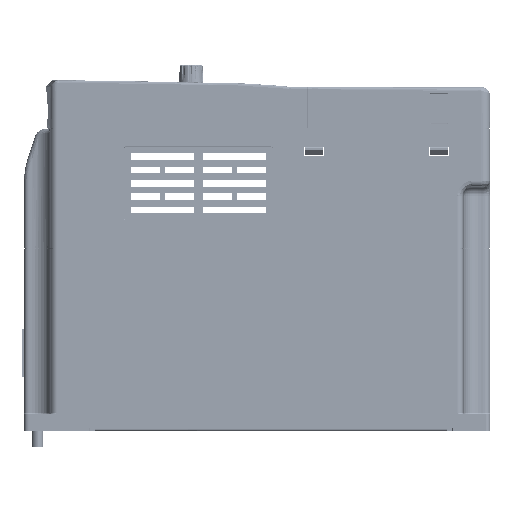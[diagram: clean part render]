
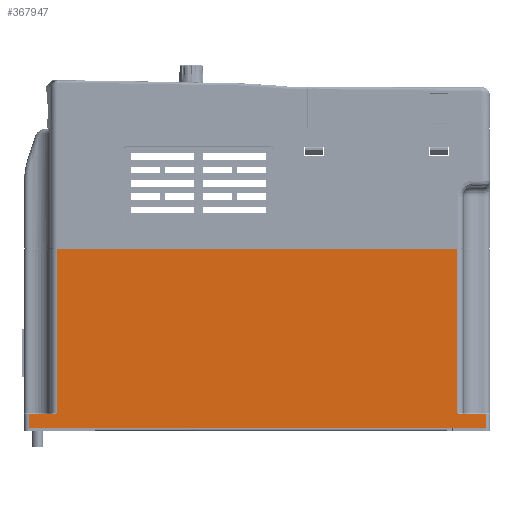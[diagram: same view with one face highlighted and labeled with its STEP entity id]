
A CAD part, left-side view. The second image highlights one B-rep face of the part: STEP entity #367947.
In plain terms, the highlighted planar face has unit normal (-1, 0, 0).
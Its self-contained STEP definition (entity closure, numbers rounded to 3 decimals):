
#348118=DIRECTION('',(0.,-1.,0.));
#348119=VECTOR('',#348118,206.);
#348120=CARTESIAN_POINT('',(-65.,103.,-77.));
#348121=LINE('',#348120,#348119);
#348570=DIRECTION('',(0.,0.,1.));
#348571=VECTOR('',#348570,6.3);
#348572=CARTESIAN_POINT('',(-65.,-103.,-77.));
#348573=LINE('',#348572,#348571);
#348584=CARTESIAN_POINT('',(-65.,92.285,
-70.7));
#348585=CARTESIAN_POINT('',(-65.,92.071,
-70.694));
#348586=CARTESIAN_POINT('',(-65.,91.63,
-70.634));
#348587=CARTESIAN_POINT('',(-65.,90.948,
-70.375));
#348588=CARTESIAN_POINT('',(-65.,90.445,-70.138));
#348589=CARTESIAN_POINT('',(-65.,90.185,-70.));
#348594=DIRECTION('',(0.,-1.,0.));
#348595=VECTOR('',#348594,180.185);
#348596=CARTESIAN_POINT('',(-65.,90.185,4.));
#348597=LINE('',#348596,#348595);
#348601=CARTESIAN_POINT('',(-65.,-90.,-70.));
#348602=CARTESIAN_POINT('',(-65.,-90.236,-70.129));
#348603=CARTESIAN_POINT('',(-65.,-90.706,
-70.353));
#348604=CARTESIAN_POINT('',(-65.,-91.516,
-70.654));
#348605=CARTESIAN_POINT('',(-65.,-91.917,
-70.703));
#348606=CARTESIAN_POINT('',(-65.,-92.1,
-70.7));
#348626=DIRECTION('',(0.,1.,0.));
#348627=VECTOR('',#348626,10.715);
#348628=CARTESIAN_POINT('',(-65.,92.285,
-70.7));
#348629=LINE('',#348628,#348627);
#350115=DIRECTION('',(0.,1.,0.));
#350116=VECTOR('',#350115,10.9);
#350117=CARTESIAN_POINT('',(-65.,-103.,-70.7));
#350118=LINE('',#350117,#350116);
#350312=DIRECTION('',(0.,0.,1.));
#350313=VECTOR('',#350312,74.);
#350314=CARTESIAN_POINT('',(-65.,-90.,-70.));
#350315=LINE('',#350314,#350313);
#350361=DIRECTION('',(0.,0.,-1.));
#350362=VECTOR('',#350361,74.);
#350363=CARTESIAN_POINT('',(-65.,90.185,4.));
#350364=LINE('',#350363,#350362);
#363586=DIRECTION('',(0.,0.,-1.));
#363587=VECTOR('',#363586,6.3);
#363588=CARTESIAN_POINT('',(-65.,103.,-70.7));
#363589=LINE('',#363588,#363587);
#364693=CARTESIAN_POINT('',(-65.,103.,-77.));
#364694=VERTEX_POINT('',#364693);
#364695=CARTESIAN_POINT('',(-65.,-103.,-77.));
#364696=VERTEX_POINT('',#364695);
#364885=CARTESIAN_POINT('',(-65.,-103.,-70.7));
#364886=VERTEX_POINT('',#364885);
#364887=CARTESIAN_POINT('',(-65.,92.285,
-70.7));
#364888=CARTESIAN_POINT('',(-65.,103.,-70.7));
#364889=VERTEX_POINT('',#364887);
#364890=VERTEX_POINT('',#364888);
#364891=VERTEX_POINT('',#348589);
#364892=CARTESIAN_POINT('',(-65.,90.185,4.));
#364893=VERTEX_POINT('',#364892);
#364894=CARTESIAN_POINT('',(-65.,-90.,4.));
#364895=VERTEX_POINT('',#364894);
#364896=CARTESIAN_POINT('',(-65.,-90.,-70.));
#364897=VERTEX_POINT('',#364896);
#364898=VERTEX_POINT('',#348606);
#367922=CARTESIAN_POINT('',(-65.,105.,-77.));
#367923=DIRECTION('',(-1.,0.,0.));
#367924=DIRECTION('',(0.,1.,0.));
#367925=AXIS2_PLACEMENT_3D('',#367922,#367923,#367924);
#367926=PLANE('',#367925);
#367928=ORIENTED_EDGE('',*,*,#367927,.F.);
#367930=ORIENTED_EDGE('',*,*,#367929,.T.);
#367932=ORIENTED_EDGE('',*,*,#367931,.F.);
#367934=ORIENTED_EDGE('',*,*,#367933,.T.);
#367936=ORIENTED_EDGE('',*,*,#367935,.F.);
#367938=ORIENTED_EDGE('',*,*,#367937,.T.);
#367940=ORIENTED_EDGE('',*,*,#367939,.F.);
#367941=ORIENTED_EDGE('',*,*,#367906,.F.);
#367942=ORIENTED_EDGE('',*,*,#367643,.F.);
#367944=ORIENTED_EDGE('',*,*,#367943,.F.);
#367945=EDGE_LOOP('',(#367928,#367930,#367932,#367934,#367936,#367938,#367940,
#367941,#367942,#367944));
#367946=FACE_OUTER_BOUND('',#367945,.F.);
#348590=B_SPLINE_CURVE_WITH_KNOTS('',3,(#348584,#348585,#348586,#348587,#348588,
#348589),.UNSPECIFIED.,.F.,.F.,(4,1,1,4),(0.,0.333,
0.667,1.),.UNSPECIFIED.);
#348607=B_SPLINE_CURVE_WITH_KNOTS('',3,(#348601,#348602,#348603,#348604,#348605,
#348606),.UNSPECIFIED.,.F.,.F.,(4,1,1,4),(0.,0.333,
0.667,1.),.UNSPECIFIED.);
#367643=EDGE_CURVE('',#364694,#364696,#348121,.T.);
#367906=EDGE_CURVE('',#364696,#364886,#348573,.T.);
#367927=EDGE_CURVE('',#364889,#364890,#348629,.T.);
#367929=EDGE_CURVE('',#364889,#364891,#348590,.T.);
#367931=EDGE_CURVE('',#364893,#364891,#350364,.T.);
#367933=EDGE_CURVE('',#364893,#364895,#348597,.T.);
#367935=EDGE_CURVE('',#364897,#364895,#350315,.T.);
#367937=EDGE_CURVE('',#364897,#364898,#348607,.T.);
#367939=EDGE_CURVE('',#364886,#364898,#350118,.T.);
#367943=EDGE_CURVE('',#364890,#364694,#363589,.T.);
#367947=ADVANCED_FACE('',(#367946),#367926,.T.);
